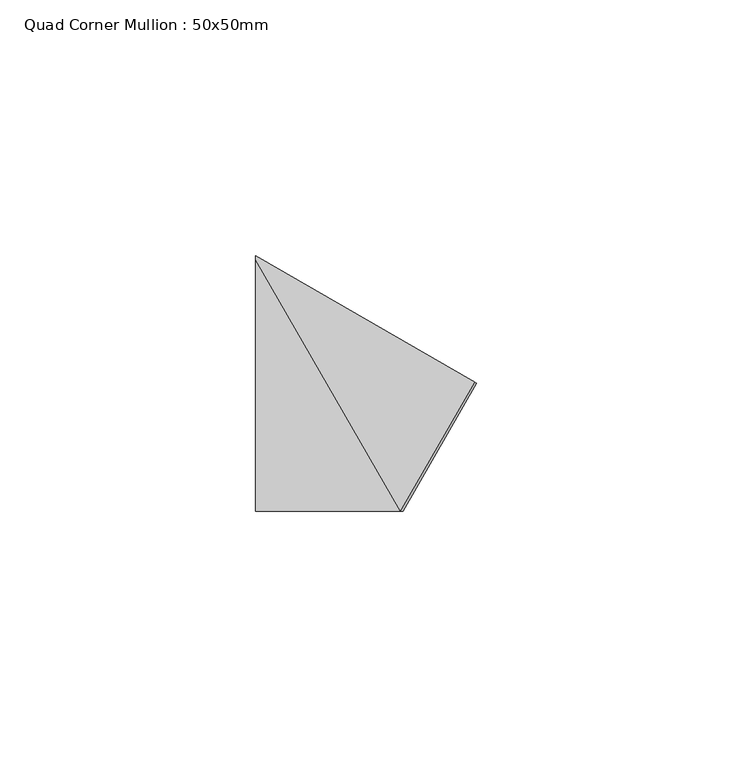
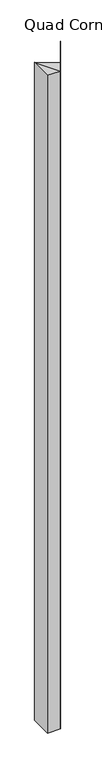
"""IFC4 building model written with IfcOpenShell, lengths in millimetres: member geometry, Quad Corner Mullion : 50x50mm."""

from ifc_helpers import new_model, si_unit, origin, place, context, project, spatial, faceted_brep, source, transform, mapped, element, save


def quad_corner_mullion_50x50mm_5c59c438(model_context):
    return source(origin(), model_context, "Body", "Brep", [
        faceted_brep([(28.8671999, -0.0016293, -1603.2155207), (14.4331296, -25.0, -1603.2155207), (-14.4331296, -25.0, -1603.2155207), (-14.4331296, 25.0, -1603.2155207), (-14.4331296, 25.0, -49.9365177), (28.516948, 0.2006063, -50.3369134), (28.8664944, -0.001222, -0.3363702), (-14.4331296, -25.0, -49.9332656), (-14.4331296, 24.1942637, -49.9332656), (14.4331296, -25.0, 0.0336327), (13.9661068, -25.0, -50.0656438)], [[[0, 1, 2, 3]], [[4, 5, 6, 0, 3]], [[7, 8, 4, 3, 2]], [[9, 10, 7, 2, 1]], [[6, 9, 1, 0]], [[6, 5, 10, 9]], [[5, 4, 8, 10]], [[8, 7, 10]]]),
    ])


if __name__ == "__main__":
    model = new_model("IFC4")
    model_context = context("Model", 3, world=origin())
    ifc_project = project(units=[si_unit("LENGTHUNIT", "METRE", prefix="MILLI")], contexts=[model_context])
    site = spatial("IfcSite", under=ifc_project)
    building = spatial("IfcBuilding", under=site)
    placement = place(None, origin())
    quad_corner_mullion_50x50mm_shape = quad_corner_mullion_50x50mm_5c59c438(model_context)
    element("IfcMember", 1, ObjectType="Quad Corner Mullion : 50x50mm", at=placement, inside=building, context=model_context, shape_type="MappedRepresentation", body=[
        mapped(quad_corner_mullion_50x50mm_shape, transform((0.0, 0.0, 0.0), x_axis=(1.0, 0.0, 0.0), y_axis=(0.0, 1.0, 0.0), z_axis=(0.0, 0.0, 1.0))),
    ])
    save(model, "model.ifc")
